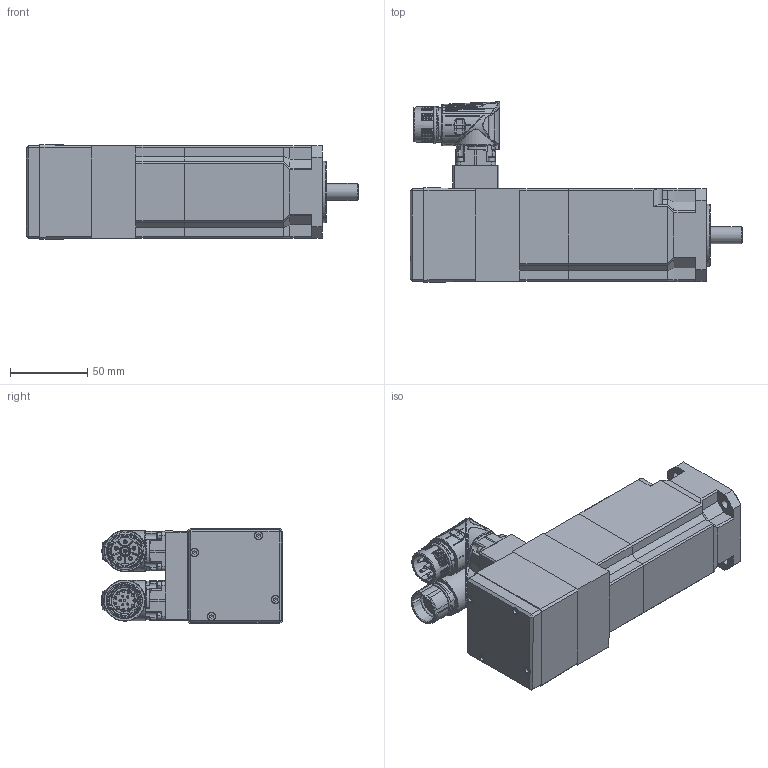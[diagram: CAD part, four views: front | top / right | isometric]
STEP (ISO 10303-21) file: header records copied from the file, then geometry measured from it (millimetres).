
FILE_DESCRIPTION(/* description */ (''),/* implementation_level */ '2;1');
FILE_NAME(/* name */ 'D:\InventorWorkspace2017\CAD\Projekte_EDEM\HLR\Zubehörteile\SMHA60601,4811S2I64C72.stp',/* time_stamp */ '2019-02-13T12:27:32+01:00',/* author */ ('544672'),/* organization */ (''),/* preprocessor_version */ 'ST-DEVELOPER v16.5',/* originating_system */ 'Autodesk Inventor 2017',/* authorisation */ '');
FILE_SCHEMA (('AUTOMOTIVE_DESIGN { 1 0 10303 214 3 1 1 }'));
Products named in the file (1): SMHA60451.4811S2I64C72
Bounding box: 214.5 x 116.88 x 61.28 mm (x, y, z)
Volume: 744251.1 mm3; surface area: 74206.3 mm2
Topology: 1 solids, 1 shells, 2167 faces, 5381 edges, 3253 vertices
Faces by surface type: plane 609, cylinder 591, bspline 577, cone 170, torus 170, sphere 50
Full cylindrical faces by diameter (mm): 1.2 x15, 2 x6, 2.15 x6, 3.167 x1, 4 x1, 4.333 x1, 4.5 x10, 5.5 x6, 5.9 x2, 11 x1, 12 x1, 19.16 x1, 21.15 x2, 21.6 x2, 21.8 x1, 21.9 x1, 24.4 x1, 25 x1, 28 x1, 40 x1
Entity records: 121108 total; most frequent: CARTESIAN_POINT 71451, ORIENTED_EDGE 10314, DIRECTION 9209, EDGE_CURVE 5157, AXIS2_PLACEMENT_3D 3742, VERTEX_POINT 3200, EDGE_LOOP 2379, ADVANCED_FACE 2163
